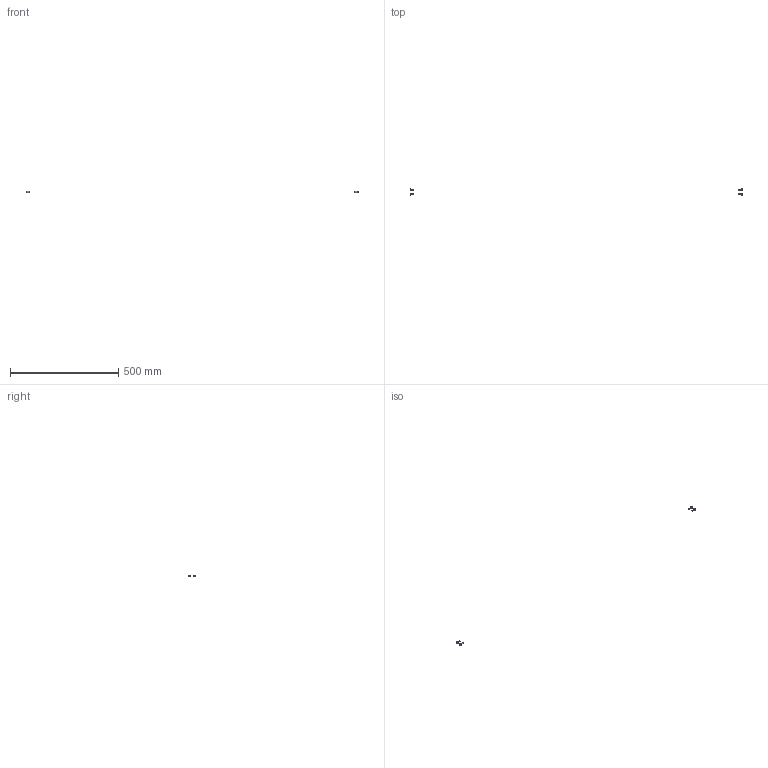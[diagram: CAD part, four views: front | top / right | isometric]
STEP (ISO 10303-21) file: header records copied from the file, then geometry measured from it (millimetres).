
FILE_DESCRIPTION(/* description */ (''),/* implementation_level */ '2;1');
FILE_NAME(/* name */ 'Y-CART~4',/* time_stamp */ '2014-02-14T19:37:17+01:00',/* author */ (''),/* organization */ (''),/* preprocessor_version */ 'ST-DEVELOPER v14',/* originating_system */ '',/* authorisation */ '');
FILE_SCHEMA (('AUTOMOTIVE_DESIGN'));
Length unit declared in the file: millimetre
Products named in the file (2): Document; screw DIN7984-like, low, M5x16
Assembly tree (2 placements, depth 2):
  Document
    screw DIN7984-like, low, M5x16  x2
Bounding box: 1533 x 28.96 x 9 mm (x, y, z)
Volume: 1534.1 mm3; surface area: 1788.3 mm2
Topology: 4 solids, 4 shells, 100 faces, 236 edges, 144 vertices
Faces by surface type: plane 60, bspline 40
Entity records: 4650 total; most frequent: CARTESIAN_POINT 2324, B_SPLINE_CURVE_WITH_KNOTS 387, ORIENTED_EDGE 342, PCURVE 342, DEFINITIONAL_REPRESENTATION 342, SURFACE_CURVE 171, EDGE_CURVE 171, VERTEX_POINT 108
